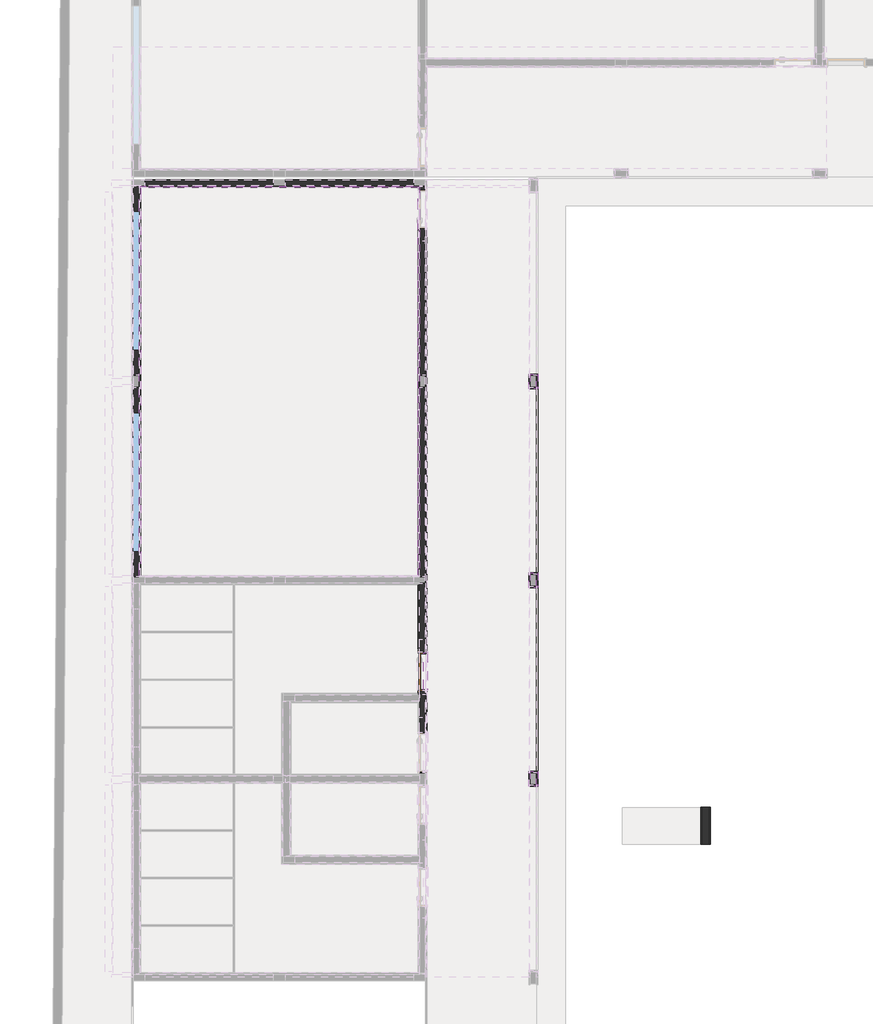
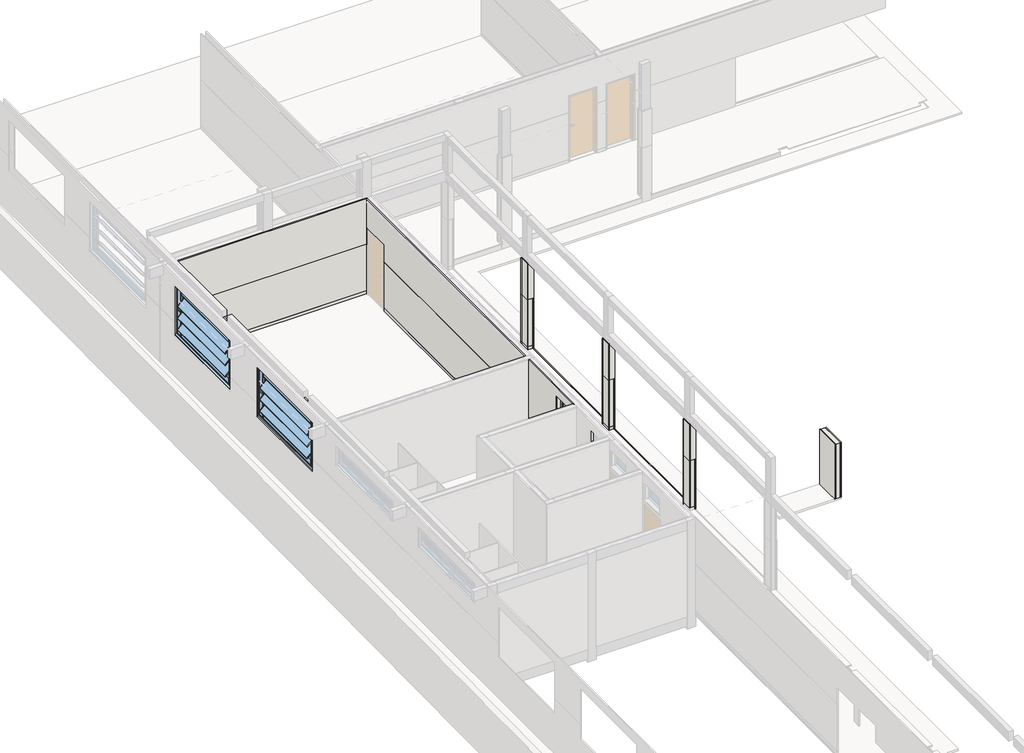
# One storey, part 4 of 11: 57 walls, 3 windows, 1 door.
"""IFC4 building model written with IfcOpenShell, lengths in millimetres."""

from ifc_helpers import new_model, si_unit, frame, origin, place, context, project, spatial, polyline, outline, extrude, faceted_brep, transform, mapped, element, save
from components import door_80_x_210_cm_externa_7cd48cfd, window_9a90df48, window_51dac84b

model = new_model("IFC4")

# Units and contexts
model_context = context("Model", 3, world=origin())
ifc_project = project(units=[si_unit("LENGTHUNIT", "METRE", prefix="MILLI")], contexts=[model_context])

# Site, building, storey
site = spatial("IfcSite", under=ifc_project)
building = spatial("IfcBuilding", under=site)
storey = spatial("IfcBuildingStorey", under=building, Name="NÍVEL 1", Elevation=43.4413576)

# Door
placement = place(None, origin())
door_80_x_210_cm_externa_shape = door_80_x_210_cm_externa_7cd48cfd(model_context)
element("IfcDoor", 1, ObjectType="POR_PM_GIRO_1FL : 80 x 210 cm Externa", at=placement, inside=storey, context=model_context, shape_type="MappedRepresentation", body=[
    mapped(door_80_x_210_cm_externa_shape, transform((9202.3574069, -2707.9280358, 63.4413576), x_axis=(0.0, 1.0, 0.0), y_axis=(-1.0, 0.0, 0.0), z_axis=(0.0, 0.0, 1.0))),
])

# Walls
element("IfcWall", 2, ObjectType="RODAPÉ EM GRANILITE", at=placement, inside=storey, context=model_context, shape_type="Brep", body=[
    faceted_brep([(11672.3574069, -4867.9280358, 43.4413576), (11502.3574069, -4867.9280358, 43.4413576), (11502.3574069, -4867.9280358, 143.4413576), (11672.3574069, -4867.9280358, 143.4413576), (11672.3574069, -4897.9280358, 43.4413576), (11672.3574069, -4897.9280358, 143.4413576), (11532.3574069, -4897.9280358, 143.4413576), (11502.3574069, -4897.9280358, 143.4413576), (11502.3574069, -4897.9280358, 43.4413576), (11532.3574069, -4897.9280358, 43.4413576), (11672.3574069, -4882.9280358, 43.4413576)], [[[0, 1, 2, 3]], [[4, 5, 6, 7, 8, 9]], [[1, 0, 10, 4, 9, 8]], [[3, 2, 7, 6, 5]], [[2, 1, 8, 7]], [[0, 3, 5, 4, 10]]]),
])
element("IfcWall", 3, ObjectType="RODAPÉ EM GRANILITE", at=placement, inside=storey, context=model_context, shape_type="Brep", body=[
    faceted_brep([(11672.3574069, -567.9280358, 43.4413576), (11502.3574069, -567.9280358, 43.4413576), (11502.3574069, -567.9280358, 143.4413576), (11672.3574069, -567.9280358, 143.4413576), (11672.3574069, -597.9280358, 43.4413576), (11672.3574069, -597.9280358, 143.4413576), (11532.3574069, -597.9280358, 143.4413576), (11502.3574069, -597.9280358, 143.4413576), (11502.3574069, -597.9280358, 43.4413576), (11532.3574069, -597.9280358, 43.4413576), (11672.3574069, -582.9280358, 43.4413576)], [[[0, 1, 2, 3]], [[4, 5, 6, 7, 8, 9]], [[1, 0, 10, 4, 9, 8]], [[3, 2, 7, 6, 5]], [[2, 1, 8, 7]], [[0, 3, 5, 4, 10]]]),
])
element("IfcWall", 4, ObjectType="RODAPÉ EM GRANILITE", at=placement, inside=storey, context=model_context, shape_type="Brep", body=[
    faceted_brep([(11502.3574069, -597.9280358, 43.4413576), (11502.3574069, -887.9280358, 43.4413576), (11502.3574069, -887.9280358, 143.4413576), (11502.3574069, -597.9280358, 143.4413576), (11532.3574069, -597.9280358, 43.4413576), (11532.3574069, -597.9280358, 143.4413576), (11532.3574069, -857.9280358, 143.4413576), (11532.3574069, -887.9280358, 143.4413576), (11532.3574069, -887.9280358, 43.4413576), (11532.3574069, -857.9280358, 43.4413576)], [[[0, 1, 2, 3]], [[4, 5, 6, 7, 8, 9]], [[1, 0, 4, 9, 8]], [[3, 2, 7, 6, 5]], [[0, 3, 5, 4]], [[2, 1, 8, 7]]]),
])
element("IfcWall", 5, ObjectType="RODAPÉ EM GRANILITE", at=placement, inside=storey, context=model_context, shape_type="Brep", body=[
    faceted_brep([(11532.3574069, -887.9280358, 43.4413576), (11672.3574069, -887.9280358, 43.4413576), (11672.3574069, -887.9280358, 143.4413576), (11532.3574069, -887.9280358, 143.4413576), (11532.3574069, -857.9280358, 43.4413576), (11532.3574069, -857.9280358, 143.4413576), (11672.3574069, -857.9280358, 143.4413576), (11672.3574069, -857.9280358, 43.4413576), (11672.3574069, -872.9280358, 43.4413576)], [[[0, 1, 2, 3]], [[4, 5, 6, 7]], [[1, 0, 4, 7, 8]], [[3, 2, 6, 5]], [[0, 3, 5, 4]], [[2, 1, 8, 7, 6]]]),
])
element("IfcWall", 6, ObjectType="RODAPÉ EM GRANILITE", at=placement, inside=storey, context=model_context, shape_type="Brep", body=[
    faceted_brep([(11672.3574069, 3732.0719642, 43.4413576), (11502.3574069, 3732.0719642, 43.4413576), (11502.3574069, 3732.0719642, 143.4413576), (11672.3574069, 3732.0719642, 143.4413576), (11672.3574069, 3702.0719642, 43.4413576), (11672.3574069, 3702.0719642, 143.4413576), (11532.3574069, 3702.0719642, 143.4413576), (11502.3574069, 3702.0719642, 143.4413576), (11502.3574069, 3702.0719642, 43.4413576), (11532.3574069, 3702.0719642, 43.4413576), (11672.3574069, 3717.0719642, 43.4413576)], [[[0, 1, 2, 3]], [[4, 5, 6, 7, 8, 9]], [[1, 0, 10, 4, 9, 8]], [[3, 2, 7, 6, 5]], [[2, 1, 8, 7]], [[0, 3, 5, 4, 10]]]),
])
element("IfcWall", 7, ObjectType="RODAPÉ EM GRANILITE", at=placement, inside=storey, context=model_context, shape_type="Brep", body=[
    faceted_brep([(11502.3574069, 3702.0719642, 43.4413576), (11502.3574069, 3412.0719642, 43.4413576), (11502.3574069, 3412.0719642, 143.4413576), (11502.3574069, 3702.0719642, 143.4413576), (11532.3574069, 3702.0719642, 43.4413576), (11532.3574069, 3702.0719642, 143.4413576), (11532.3574069, 3442.0719642, 143.4413576), (11532.3574069, 3412.0719642, 143.4413576), (11532.3574069, 3412.0719642, 43.4413576), (11532.3574069, 3442.0719642, 43.4413576)], [[[0, 1, 2, 3]], [[4, 5, 6, 7, 8, 9]], [[1, 0, 4, 9, 8]], [[3, 2, 7, 6, 5]], [[0, 3, 5, 4]], [[2, 1, 8, 7]]]),
])
element("IfcWall", 8, ObjectType="RODAPÉ EM GRANILITE", at=placement, inside=storey, context=model_context, shape_type="Brep", body=[
    faceted_brep([(11532.3574069, 3412.0719642, 43.4413576), (11672.3574069, 3412.0719642, 43.4413576), (11672.3574069, 3412.0719642, 143.4413576), (11532.3574069, 3412.0719642, 143.4413576), (11532.3574069, 3442.0719642, 43.4413576), (11532.3574069, 3442.0719642, 143.4413576), (11672.3574069, 3442.0719642, 143.4413576), (11672.3574069, 3442.0719642, 43.4413576), (11672.3574069, 3427.0719642, 43.4413576)], [[[0, 1, 2, 3]], [[4, 5, 6, 7]], [[1, 0, 4, 7, 8]], [[3, 2, 6, 5]], [[0, 3, 5, 4]], [[2, 1, 8, 7, 6]]]),
])
element("IfcWall", 9, ObjectType="MASSA ÚNICA PARA BARRADO", at=placement, inside=storey, context=model_context, shape_type="Brep", body=[
    faceted_brep([(11702.3574069, 3427.0719642, -106.5586424), (11702.3574069, 3717.0719642, -106.5586424), (11702.3574069, 3717.0719642, 43.4413576), (11702.3574069, 3732.0719642, 43.4413576), (11702.3574069, 3732.0719642, 1663.4413576), (11702.3574069, 3412.0719642, 1663.4413576), (11702.3574069, 3412.0719642, 43.4413576), (11702.3574069, 3427.0719642, 43.4413576), (11672.3574069, 3427.0719642, -106.5586424), (11672.3574069, 3427.0719642, 43.4413576), (11672.3574069, 3412.0719642, 43.4413576), (11672.3574069, 3412.0719642, 143.4413576), (11672.3574069, 3412.0719642, 1663.4413576), (11672.3574069, 3442.0719642, 1663.4413576), (11672.3574069, 3702.0719642, 1663.4413576), (11672.3574069, 3732.0719642, 1663.4413576), (11672.3574069, 3732.0719642, 143.4413576), (11672.3574069, 3732.0719642, 43.4413576), (11672.3574069, 3717.0719642, 43.4413576), (11672.3574069, 3717.0719642, -106.5586424)], [[[0, 1, 2, 3, 4, 5, 6, 7]], [[8, 9, 10, 11, 12, 13, 14, 15, 16, 17, 18, 19]], [[1, 0, 8, 19]], [[5, 4, 15, 14, 13, 12]], [[0, 7, 9, 8]], [[6, 10, 9, 7]], [[2, 1, 19, 18]], [[17, 3, 2, 18]], [[3, 17, 16, 15, 4]], [[5, 12, 11, 10, 6]]]),
])
element("IfcWall", 10, ObjectType="MASSA ÚNICA PARA BARRADO", at=placement, inside=storey, context=model_context, shape_type="Brep", body=[
    faceted_brep([(11702.3574069, -582.9280358, -106.5586424), (11702.3574069, 3427.0719642, -106.5586424), (11702.3574069, 3427.0719642, 43.4413576), (11702.3574069, 3412.0719642, 43.4413576), (11702.3574069, -567.9280358, 43.4413576), (11702.3574069, -582.9280358, 43.4413576), (11672.3574069, -582.9280358, -106.5586424), (11672.3574069, -582.9280358, 43.4413576), (11672.3574069, -567.9280358, 43.4413576), (11672.3574069, 3412.0719642, 43.4413576), (11672.3574069, 3427.0719642, 43.4413576), (11672.3574069, 3427.0719642, -106.5586424)], [[[0, 1, 2, 3, 4, 5]], [[6, 7, 8, 9, 10, 11]], [[1, 0, 6, 11]], [[2, 1, 11, 10]], [[5, 4, 3, 2, 10, 9, 8, 7]], [[0, 5, 7, 6]]]),
])
element("IfcWall", 11, ObjectType="MASSA ÚNICA PARA BARRADO", at=placement, inside=storey, context=model_context, shape_type="Brep", body=[
    faceted_brep([(11702.3574069, -872.9280358, -106.5586424), (11702.3574069, -582.9280358, -106.5586424), (11702.3574069, -582.9280358, 43.4413576), (11702.3574069, -567.9280358, 43.4413576), (11702.3574069, -567.9280358, 1663.4413576), (11702.3574069, -887.9280358, 1663.4413576), (11702.3574069, -887.9280358, 43.4413576), (11702.3574069, -872.9280358, 43.4413576), (11672.3574069, -872.9280358, -106.5586424), (11672.3574069, -872.9280358, 43.4413576), (11672.3574069, -887.9280358, 43.4413576), (11672.3574069, -887.9280358, 143.4413576), (11672.3574069, -887.9280358, 1663.4413576), (11672.3574069, -857.9280358, 1663.4413576), (11672.3574069, -597.9280358, 1663.4413576), (11672.3574069, -567.9280358, 1663.4413576), (11672.3574069, -567.9280358, 143.4413576), (11672.3574069, -567.9280358, 43.4413576), (11672.3574069, -582.9280358, 43.4413576), (11672.3574069, -582.9280358, -106.5586424)], [[[0, 1, 2, 3, 4, 5, 6, 7]], [[8, 9, 10, 11, 12, 13, 14, 15, 16, 17, 18, 19]], [[1, 0, 8, 19]], [[5, 4, 15, 14, 13, 12]], [[0, 7, 9, 8]], [[6, 10, 9, 7]], [[2, 1, 19, 18]], [[17, 3, 2, 18]], [[3, 17, 16, 15, 4]], [[5, 12, 11, 10, 6]]]),
])
element("IfcWall", 12, ObjectType="MASSA ÚNICA PARA BARRADO", at=placement, inside=storey, context=model_context, shape_type="Brep", body=[
    faceted_brep([(11702.3574069, -4882.9280358, -106.5586424), (11702.3574069, -872.9280358, -106.5586424), (11702.3574069, -872.9280358, 43.4413576), (11702.3574069, -887.9280358, 43.4413576), (11702.3574069, -4867.9280358, 43.4413576), (11702.3574069, -4882.9280358, 43.4413576), (11672.3574069, -4882.9280358, -106.5586424), (11672.3574069, -4882.9280358, 43.4413576), (11672.3574069, -4867.9280358, 43.4413576), (11672.3574069, -887.9280358, 43.4413576), (11672.3574069, -872.9280358, 43.4413576), (11672.3574069, -872.9280358, -106.5586424)], [[[0, 1, 2, 3, 4, 5]], [[6, 7, 8, 9, 10, 11]], [[1, 0, 6, 11]], [[2, 1, 11, 10]], [[5, 4, 3, 2, 10, 9, 8, 7]], [[0, 5, 7, 6]]]),
])
element("IfcWall", 13, ObjectType="MASSA ÚNICA PARA BARRADO", at=placement, inside=storey, context=model_context, shape_type="Brep", body=[
    faceted_brep([(11702.3574069, -5172.9280358, -106.5586424), (11702.3574069, -4882.9280358, -106.5586424), (11702.3574069, -4882.9280358, 43.4413576), (11702.3574069, -4867.9280358, 43.4413576), (11702.3574069, -4867.9280358, 1663.4413576), (11702.3574069, -5187.9280358, 1663.4413576), (11702.3574069, -5187.9280358, 43.4413576), (11702.3574069, -5172.9280358, 43.4413576), (11672.3574069, -5172.9280358, -106.5586424), (11672.3574069, -5172.9280358, 43.4413576), (11672.3574069, -5187.9280358, 43.4413576), (11672.3574069, -5187.9280358, 143.4413576), (11672.3574069, -5187.9280358, 1663.4413576), (11672.3574069, -5157.9280358, 1663.4413576), (11672.3574069, -4897.9280358, 1663.4413576), (11672.3574069, -4867.9280358, 1663.4413576), (11672.3574069, -4867.9280358, 143.4413576), (11672.3574069, -4867.9280358, 43.4413576), (11672.3574069, -4882.9280358, 43.4413576), (11672.3574069, -4882.9280358, -106.5586424)], [[[0, 1, 2, 3, 4, 5, 6, 7]], [[8, 9, 10, 11, 12, 13, 14, 15, 16, 17, 18, 19]], [[1, 0, 8, 19]], [[5, 4, 15, 14, 13, 12]], [[0, 7, 9, 8]], [[6, 10, 9, 7]], [[2, 1, 19, 18]], [[17, 3, 2, 18]], [[3, 17, 16, 15, 4]], [[5, 12, 11, 10, 6]]]),
])
element("IfcWall", 14, ObjectType="PARE.ALVE ALVENARIA DE BLOCOS CERÂMICOS FURADOS NA HORIZONTAL 14X9X19", at=placement, inside=storey, context=model_context, shape_type="Brep", body=[
    faceted_brep([(9272.3574069, -797.9280358, 43.4413576), (9272.3574069, -797.9280358, 2843.4413576), (9272.3574069, -2297.9280358, 2843.4413576), (9272.3574069, -2297.9280358, 2343.4413576), (9272.3574069, -2272.9280358, 2343.4413576), (9272.3574069, -2272.9280358, 2313.4413576), (9272.3574069, -3122.9280358, 2313.4413576), (9272.3574069, -3122.9280358, 2343.4413576), (9272.3574069, -3097.9280358, 2343.4413576), (9272.3574069, -3097.9280358, 2843.4413576), (9272.3574069, -4047.9280358, 2843.4413576), (9272.3574069, -4047.9280358, 2343.4413576), (9272.3574069, -4022.9280358, 2343.4413576), (9272.3574069, -4022.9280358, 2313.4413576), (9272.3574069, -4872.9280358, 2313.4413576), (9272.3574069, -4872.9280358, 2343.4413576), (9272.3574069, -4847.9280358, 2343.4413576), (9272.3574069, -4847.9280358, 2843.4413576), (9272.3574069, -4897.9280358, 2843.4413576), (9272.3574069, -4897.9280358, 2308.4413576), (9272.3574069, -3697.9280358, 2308.4413576), (9272.3574069, -3697.9280358, 2208.4413576), (9272.3574069, -4897.9280358, 2208.4413576), (9272.3574069, -4897.9280358, 43.4413576), (9272.3574069, -4877.9280358, 43.4413576), (9272.3574069, -4877.9280358, 2163.4413576), (9272.3574069, -4037.9280358, 2163.4413576), (9272.3574069, -4037.9280358, 43.4413576), (9272.3574069, -3127.9280358, 43.4413576), (9272.3574069, -3127.9280358, 2163.4413576), (9272.3574069, -2287.9280358, 2163.4413576), (9272.3574069, -2287.9280358, 43.4413576), (9272.3574069, -3207.9280358, 2308.4413576), (9272.3574069, -2007.9280358, 2308.4413576), (9272.3574069, -2007.9280358, 2208.4413576), (9272.3574069, -3207.9280358, 2208.4413576), (9132.3574069, -797.9280358, 2843.4413576), (9132.3574069, -797.9280358, 43.4413576), (9132.3574069, -2287.9280358, 43.4413576), (9132.3574069, -2287.9280358, 2163.4413576), (9132.3574069, -3127.9280358, 2163.4413576), (9132.3574069, -3127.9280358, 43.4413576), (9132.3574069, -3207.9280358, 43.4413576), (9132.3574069, -3347.9280358, 43.4413576), (9132.3574069, -4037.9280358, 43.4413576), (9132.3574069, -4037.9280358, 2163.4413576), (9132.3574069, -4877.9280358, 2163.4413576), (9132.3574069, -4877.9280358, 43.4413576), (9132.3574069, -4897.9280358, 43.4413576), (9132.3574069, -4897.9280358, 2208.4413576), (9132.3574069, -3697.9280358, 2208.4413576), (9132.3574069, -3697.9280358, 2308.4413576), (9132.3574069, -4897.9280358, 2308.4413576), (9132.3574069, -4897.9280358, 2843.4413576), (9132.3574069, -4847.9280358, 2843.4413576), (9132.3574069, -4847.9280358, 2343.4413576), (9132.3574069, -4872.9280358, 2343.4413576), (9132.3574069, -4872.9280358, 2313.4413576), (9132.3574069, -4022.9280358, 2313.4413576), (9132.3574069, -4022.9280358, 2343.4413576), (9132.3574069, -4047.9280358, 2343.4413576), (9132.3574069, -4047.9280358, 2843.4413576), (9132.3574069, -3347.9280358, 2843.4413576), (9132.3574069, -3207.9280358, 2843.4413576), (9132.3574069, -3097.9280358, 2843.4413576), (9132.3574069, -3097.9280358, 2343.4413576), (9132.3574069, -3122.9280358, 2343.4413576), (9132.3574069, -3122.9280358, 2313.4413576), (9132.3574069, -2272.9280358, 2313.4413576), (9132.3574069, -2272.9280358, 2343.4413576), (9132.3574069, -2297.9280358, 2343.4413576), (9132.3574069, -2297.9280358, 2843.4413576), (9132.3574069, -2007.9280358, 2308.4413576), (9132.3574069, -3207.9280358, 2308.4413576), (9132.3574069, -3207.9280358, 2208.4413576), (9132.3574069, -2007.9280358, 2208.4413576)], [[[0, 1, 2, 3, 4, 5, 6, 7, 8, 9, 10, 11, 12, 13, 14, 15, 16, 17, 18, 19, 20, 21, 22, 23, 24, 25, 26, 27, 28, 29, 30, 31], [32, 33, 34, 35]], [[36, 37, 38, 39, 40, 41, 42, 43, 44, 45, 46, 47, 48, 49, 50, 51, 52, 53, 54, 55, 56, 57, 58, 59, 60, 61, 62, 63, 64, 65, 66, 67, 68, 69, 70, 71], [72, 73, 74, 75]], [[37, 0, 31, 38]], [[23, 48, 47, 24]], [[27, 44, 43, 42, 41, 28]], [[1, 0, 37, 36]], [[1, 36, 71, 2]], [[53, 18, 17, 54]], [[9, 64, 63, 62, 61, 10]], [[18, 53, 52, 19]], [[48, 23, 22, 49]], [[25, 24, 47, 46]], [[27, 26, 45, 44]], [[26, 25, 46, 45]], [[29, 28, 41, 40]], [[31, 30, 39, 38]], [[30, 29, 40, 39]], [[51, 20, 19, 52]], [[21, 50, 49, 22]], [[20, 51, 50, 21]], [[32, 73, 72, 33]], [[73, 32, 35, 74]], [[74, 35, 34, 75]], [[33, 72, 75, 34]], [[69, 68, 5, 4]], [[70, 69, 4, 3]], [[71, 70, 3, 2]], [[65, 64, 9, 8]], [[66, 65, 8, 7]], [[67, 66, 7, 6]], [[68, 67, 6, 5]], [[59, 58, 13, 12]], [[60, 59, 12, 11]], [[61, 60, 11, 10]], [[55, 54, 17, 16]], [[56, 55, 16, 15]], [[57, 56, 15, 14]], [[58, 57, 14, 13]]]),
])
element("IfcWall", 15, ObjectType="PARE.ALVE ALVENARIA DE BLOCOS CERÂMICOS FURADOS NA HORIZONTAL 14X9X19", at=placement, inside=storey, context=model_context, shape_type="Brep", body=[
    faceted_brep([(3072.3574069, -657.9280358, 43.4413576), (3072.3574069, 3442.0719642, 43.4413576), (3072.3574069, 3442.0719642, 1003.4413576), (3072.3574069, -657.9280358, 1003.4413576), (3072.3574069, -657.9280358, 163.4413576), (3072.3574069, -657.9280358, 63.4413576), (2932.3574069, 3442.0719642, 43.4413576), (2932.3574069, -657.9280358, 43.4413576), (2932.3574069, -657.9280358, 1003.4413576), (2932.3574069, 3442.0719642, 1003.4413576)], [[[0, 1, 2, 3, 4, 5]], [[6, 7, 8, 9]], [[1, 0, 7, 6]], [[1, 6, 9, 2]], [[3, 2, 9, 8]], [[7, 0, 5, 4, 3, 8]]]),
    faceted_brep([(3072.3574069, -657.9280358, 2843.4413576), (3072.3574069, -657.9280358, 1663.4413576), (3072.3574069, -657.9280358, 1203.4413576), (3072.3574069, -107.9280358, 1203.4413576), (3072.3574069, -107.9280358, 2843.4413576), (2932.3574069, -657.9280358, 1203.4413576), (2932.3574069, -657.9280358, 2843.4413576), (2932.3574069, -107.9280358, 2843.4413576), (2932.3574069, -107.9280358, 1203.4413576)], [[[0, 1, 2, 3, 4]], [[5, 6, 7, 8]], [[6, 0, 4, 7]], [[2, 5, 8, 3]], [[0, 6, 5, 2, 1]], [[4, 3, 8, 7]]]),
    faceted_brep([(3072.3574069, 3442.0719642, 1203.4413576), (3072.3574069, 3442.0719642, 2843.4413576), (3072.3574069, 2892.0719642, 2843.4413576), (3072.3574069, 2892.0719642, 1203.4413576), (2932.3574069, 3442.0719642, 2843.4413576), (2932.3574069, 3442.0719642, 1203.4413576), (2932.3574069, 2892.0719642, 1203.4413576), (2932.3574069, 2892.0719642, 2843.4413576)], [[[0, 1, 2, 3]], [[4, 5, 6, 7]], [[4, 1, 0, 5]], [[1, 4, 7, 2]], [[5, 0, 3, 6]], [[3, 2, 7, 6]]]),
])
element("IfcWall", 16, ObjectType="PARE.ALVE ALVENARIA DE BLOCOS CERÂMICOS FURADOS NA HORIZONTAL 14X9X19", at=placement, inside=storey, context=model_context, shape_type="Brep", body=[
    faceted_brep([(3072.3574069, 3702.0719642, 43.4413576), (3072.3574069, 7802.0719642, 43.4413576), (3072.3574069, 7802.0719642, 63.4413576), (3072.3574069, 7802.0719642, 163.4413576), (3072.3574069, 7802.0719642, 1003.4413576), (3072.3574069, 3702.0719642, 1003.4413576), (2932.3574069, 7802.0719642, 43.4413576), (2932.3574069, 3702.0719642, 43.4413576), (2932.3574069, 3702.0719642, 1003.4413576), (2932.3574069, 7802.0719642, 1003.4413576)], [[[0, 1, 2, 3, 4, 5]], [[6, 7, 8, 9]], [[1, 0, 7, 6]], [[7, 0, 5, 8]], [[5, 4, 9, 8]], [[1, 6, 9, 4, 3, 2]]]),
    faceted_brep([(3072.3574069, 3702.0719642, 2843.4413576), (3072.3574069, 3702.0719642, 1203.4413576), (3072.3574069, 4252.0719642, 1203.4413576), (3072.3574069, 4252.0719642, 2843.4413576), (2932.3574069, 3702.0719642, 1203.4413576), (2932.3574069, 3702.0719642, 2843.4413576), (2932.3574069, 4252.0719642, 2843.4413576), (2932.3574069, 4252.0719642, 1203.4413576)], [[[0, 1, 2, 3]], [[4, 5, 6, 7]], [[5, 0, 3, 6]], [[0, 5, 4, 1]], [[1, 4, 7, 2]], [[3, 2, 7, 6]]]),
    faceted_brep([(3072.3574069, 7802.0719642, 1203.4413576), (3072.3574069, 7802.0719642, 1663.4413576), (3072.3574069, 7802.0719642, 2843.4413576), (3072.3574069, 7252.0719642, 2843.4413576), (3072.3574069, 7252.0719642, 1203.4413576), (2932.3574069, 7802.0719642, 2843.4413576), (2932.3574069, 7802.0719642, 1203.4413576), (2932.3574069, 7252.0719642, 1203.4413576), (2932.3574069, 7252.0719642, 2843.4413576)], [[[0, 1, 2, 3, 4]], [[5, 6, 7, 8]], [[2, 5, 8, 3]], [[6, 0, 4, 7]], [[4, 3, 8, 7]], [[5, 2, 1, 0, 6]]]),
])
element("IfcWall", 17, ObjectType="PARE.ALVE ALVENARIA DE BLOCOS CERÂMICOS FURADOS NA HORIZONTAL 14X9X19", at=placement, inside=storey, context=model_context, shape_type="SweptSolid", body=[
    extrude(outline(polyline([(5972.3574069, 7802.0719642), (3192.3574069, 7802.0719642), (3192.3574069, 7942.0719642), (5972.3574069, 7942.0719642), (5972.3574069, 7802.0719642)])), frame((0.0, 0.0, 43.4413576), z_axis=(0.0, 0.0, 1.0), x_axis=(1.0, 0.0, 0.0)), (0.0, 0.0, 1.0), 2800.0),
])
element("IfcWall", 18, ObjectType="PARE.ALVE ALVENARIA DE BLOCOS CERÂMICOS FURADOS NA HORIZONTAL 14X9X19", at=placement, inside=storey, context=model_context, shape_type="SweptSolid", body=[
    extrude(outline(polyline([(9012.3574069, 7802.0719642), (6232.3574069, 7802.0719642), (6232.3574069, 7942.0719642), (9012.3574069, 7942.0719642), (9012.3574069, 7802.0719642)])), frame((0.0, 0.0, 43.4413576), z_axis=(0.0, 0.0, 1.0), x_axis=(1.0, 0.0, 0.0)), (0.0, 0.0, 1.0), 2800.0),
])
element("IfcWall", 19, ObjectType="PARE.ALVE ALVENARIA DE BLOCOS CERÂMICOS FURADOS NA HORIZONTAL 14X9X19", at=placement, inside=storey, context=model_context, shape_type="Brep", body=[
    faceted_brep([(9132.3574069, 3702.0719642, 43.4413576), (9132.3574069, 3702.0719642, 2843.4413576), (9132.3574069, 7802.0719642, 2843.4413576), (9132.3574069, 7802.0719642, 2308.4413576), (9132.3574069, 6602.0719642, 2308.4413576), (9132.3574069, 6602.0719642, 2208.4413576), (9132.3574069, 7802.0719642, 2208.4413576), (9132.3574069, 7802.0719642, 1663.4413576), (9132.3574069, 7802.0719642, 163.4413576), (9132.3574069, 7802.0719642, 43.4413576), (9132.3574069, 7722.0719642, 43.4413576), (9132.3574069, 7722.0719642, 2163.4413576), (9132.3574069, 6882.0719642, 2163.4413576), (9132.3574069, 6882.0719642, 43.4413576), (9272.3574069, 3702.0719642, 2843.4413576), (9272.3574069, 3702.0719642, 43.4413576), (9272.3574069, 6882.0719642, 43.4413576), (9272.3574069, 6882.0719642, 2163.4413576), (9272.3574069, 7722.0719642, 2163.4413576), (9272.3574069, 7722.0719642, 43.4413576), (9272.3574069, 7802.0719642, 43.4413576), (9272.3574069, 7802.0719642, 2208.4413576), (9272.3574069, 6602.0719642, 2208.4413576), (9272.3574069, 6602.0719642, 2308.4413576), (9272.3574069, 7802.0719642, 2308.4413576), (9272.3574069, 7802.0719642, 2843.4413576)], [[[0, 1, 2, 3, 4, 5, 6, 7, 8, 9, 10, 11, 12, 13]], [[14, 15, 16, 17, 18, 19, 20, 21, 22, 23, 24, 25]], [[15, 0, 13, 16]], [[10, 9, 20, 19]], [[1, 0, 15, 14]], [[2, 1, 14, 25]], [[18, 11, 10, 19]], [[12, 17, 16, 13]], [[11, 18, 17, 12]], [[2, 25, 24, 3]], [[20, 9, 8, 7, 6, 21]], [[23, 4, 3, 24]], [[4, 23, 22, 5]], [[5, 22, 21, 6]]]),
])
element("IfcWall", 20, ObjectType="PARE.ALVE ALVENARIA DE BLOCOS CERÂMICOS FURADOS NA HORIZONTAL 14X9X19", at=placement, inside=storey, context=model_context, shape_type="Brep", body=[
    faceted_brep([(9132.3574069, 3442.0719642, 43.4413576), (9132.3574069, -657.9280358, 43.4413576), (9132.3574069, -657.9280358, 63.4413576), (9132.3574069, -657.9280358, 163.4413576), (9132.3574069, -657.9280358, 1663.4413576), (9132.3574069, -657.9280358, 2843.4413576), (9132.3574069, 3442.0719642, 2843.4413576), (9272.3574069, 3442.0719642, 43.4413576), (9272.3574069, 3442.0719642, 2843.4413576), (9272.3574069, -657.9280358, 2843.4413576), (9272.3574069, -657.9280358, 43.4413576)], [[[0, 1, 2, 3, 4, 5, 6]], [[7, 8, 9, 10]], [[1, 0, 7, 10]], [[6, 5, 9, 8]], [[0, 6, 8, 7]], [[1, 10, 9, 5, 4, 3, 2]]]),
])
element("IfcWall", 21, ObjectType="RODAPÉ EM GRANILITE", at=placement, inside=storey, context=model_context, shape_type="SweptSolid", body=[
    extrude(outline(polyline([(9102.3574069, -627.9280358), (9102.3574069, 6852.0719642), (9132.3574069, 6852.0719642), (9132.3574069, -627.9280358), (9102.3574069, -627.9280358)])), frame((0.0, 0.0, 63.4413576), z_axis=(0.0, 0.0, 1.0), x_axis=(1.0, 0.0, 0.0)), (0.0, 0.0, 1.0), 100.0),
])
element("IfcWall", 22, ObjectType="RODAPÉ EM GRANILITE", at=placement, inside=storey, context=model_context, shape_type="SweptSolid", body=[
    extrude(outline(polyline([(3102.3574069, 7772.0719642), (3102.3574069, -627.9280358), (3072.3574069, -627.9280358), (3072.3574069, 7772.0719642), (3102.3574069, 7772.0719642)])), frame((0.0, 0.0, 63.4413576), z_axis=(0.0, 0.0, 1.0), x_axis=(1.0, 0.0, 0.0)), (0.0, 0.0, 1.0), 100.0),
])
element("IfcWall", 23, ObjectType="RODAPÉ EM GRANILITE", at=placement, inside=storey, context=model_context, shape_type="Brep", body=[
    faceted_brep([(3072.3574069, 7772.0719642, 63.4413576), (3102.3574069, 7772.0719642, 63.4413576), (9102.3574069, 7772.0719642, 63.4413576), (9102.3574069, 7772.0719642, 163.4413576), (3102.3574069, 7772.0719642, 163.4413576), (3072.3574069, 7772.0719642, 163.4413576), (3072.3574069, 7802.0719642, 63.4413576), (3072.3574069, 7802.0719642, 163.4413576), (9102.3574069, 7802.0719642, 163.4413576), (9102.3574069, 7802.0719642, 63.4413576)], [[[0, 1, 2, 3, 4, 5]], [[6, 7, 8, 9]], [[2, 1, 0, 6, 9]], [[5, 4, 3, 8, 7]], [[0, 5, 7, 6]], [[3, 2, 9, 8]]]),
])
element("IfcWall", 24, ObjectType="RODAPÉ EM GRANILITE", at=placement, inside=storey, context=model_context, shape_type="SweptSolid", body=[
    extrude(outline(polyline([(9302.3574069, -3152.9280358), (9302.3574069, -4012.9280358), (9272.3574069, -4012.9280358), (9272.3574069, -3152.9280358), (9302.3574069, -3152.9280358)])), frame((0.0, 0.0, 43.4413576), z_axis=(0.0, 0.0, 1.0), x_axis=(1.0, 0.0, 0.0)), (0.0, 0.0, 1.0), 100.0),
])
element("IfcWall", 25, ObjectType="RODAPÉ EM GRANILITE", at=placement, inside=storey, context=model_context, shape_type="SweptSolid", body=[
    extrude(outline(polyline([(9302.3574069, 6857.0719642), (9302.3574069, -2262.9280358), (9272.3574069, -2262.9280358), (9272.3574069, 6857.0719642), (9302.3574069, 6857.0719642)])), frame((0.0, 0.0, 43.4413576), z_axis=(0.0, 0.0, 1.0), x_axis=(1.0, 0.0, 0.0)), (0.0, 0.0, 1.0), 100.0),
])
element("IfcWall", 26, ObjectType="MASSA ÚNICA PARA BARRADO", at=placement, inside=storey, context=model_context, shape_type="Brep", body=[
    faceted_brep([(3072.3574069, 7772.0719642, 163.4413576), (3102.3574069, 7772.0719642, 163.4413576), (9102.3574069, 7772.0719642, 163.4413576), (9132.3574069, 7772.0719642, 163.4413576), (9132.3574069, 7772.0719642, 1663.4413576), (9102.3574069, 7772.0719642, 1663.4413576), (3102.3574069, 7772.0719642, 1663.4413576), (3072.3574069, 7772.0719642, 1663.4413576), (3072.3574069, 7802.0719642, 163.4413576), (3072.3574069, 7802.0719642, 1003.4413576), (3072.3574069, 7802.0719642, 1203.4413576), (3072.3574069, 7802.0719642, 1663.4413576), (9132.3574069, 7802.0719642, 1663.4413576), (9132.3574069, 7802.0719642, 163.4413576), (9102.3574069, 7802.0719642, 163.4413576)], [[[0, 1, 2, 3, 4, 5, 6, 7]], [[8, 9, 10, 11, 12, 13, 14]], [[3, 2, 1, 0, 8, 14, 13]], [[7, 6, 5, 4, 12, 11]], [[0, 7, 11, 10, 9, 8]], [[4, 3, 13, 12]]]),
])
element("IfcWall", 27, ObjectType="MASSA ÚNICA PARA BARRADO", at=placement, inside=storey, context=model_context, shape_type="SweptSolid", body=[
    extrude(outline(polyline([(9102.3574069, -627.9280358), (9102.3574069, 6852.0719642), (9132.3574069, 6852.0719642), (9132.3574069, -627.9280358), (9102.3574069, -627.9280358)])), frame((0.0, 0.0, 163.4413576), z_axis=(0.0, 0.0, 1.0), x_axis=(1.0, 0.0, 0.0)), (0.0, 0.0, 1.0), 1500.0),
])
element("IfcWall", 28, ObjectType="MASSA ÚNICA PARA BARRADO", at=placement, inside=storey, context=model_context, shape_type="SweptSolid", body=[
    extrude(outline(polyline([(7772.0719642, 163.4413576), (-627.9280358, 163.4413576), (-627.9280358, 1663.4413576), (-107.9280358, 1663.4413576), (-107.9280358, 1203.4413576), (2891.3447703, 1203.4413576), (2891.3447703, 1663.4413576), (4252.1287486, 1663.4413576), (4252.1287486, 1203.4413576), (7252.0719642, 1203.4413576), (7252.0719642, 1663.4413576), (7772.0719642, 1663.4413576), (7772.0719642, 163.4413576)])), frame((3072.3574069, 0.0, 0.0), z_axis=(1.0, 0.0, 0.0), x_axis=(0.0, 1.0, 0.0)), (0.0, 0.0, 1.0), 30.0),
])
element("IfcWall", 29, ObjectType="MASSA ÚNICA PARA LATEX", at=placement, inside=storey, context=model_context, shape_type="Brep", body=[
    faceted_brep([(3072.3574069, 7772.0719642, 1663.4413576), (3102.3574069, 7772.0719642, 1663.4413576), (9102.3574069, 7772.0719642, 1663.4413576), (9132.3574069, 7772.0719642, 1663.4413576), (9132.3574069, 7772.0719642, 3143.4413576), (9102.3574069, 7772.0719642, 3143.4413576), (3102.3574069, 7772.0719642, 3143.4413576), (3072.3574069, 7772.0719642, 3143.4413576), (3072.3574069, 7802.0719642, 1663.4413576), (3072.3574069, 7802.0719642, 2843.4413576), (3072.3574069, 7802.0719642, 3143.4413576), (9132.3574069, 7802.0719642, 3143.4413576), (9132.3574069, 7802.0719642, 1663.4413576)], [[[0, 1, 2, 3, 4, 5, 6, 7]], [[8, 9, 10, 11, 12]], [[3, 2, 1, 0, 8, 12]], [[7, 6, 5, 4, 11, 10]], [[0, 7, 10, 9, 8]], [[4, 3, 12, 11]]]),
])
element("IfcWall", 30, ObjectType="MASSA ÚNICA PARA LATEX", at=placement, inside=storey, context=model_context, shape_type="SweptSolid", body=[
    extrude(outline(polyline([(-627.9280358, 1663.4413576), (-627.9280358, 3143.4413576), (7772.0719642, 3143.4413576), (7772.0719642, 1663.4413576), (7752.0719642, 1663.4413576), (7752.0719642, 2213.4413576), (6852.0719642, 2213.4413576), (6852.0719642, 1663.4413576), (-627.9280358, 1663.4413576)])), frame((9102.3574069, 0.0, 0.0), z_axis=(1.0, 0.0, 0.0), x_axis=(0.0, 1.0, 0.0)), (0.0, 0.0, 1.0), 30.0),
])
element("IfcWall", 31, ObjectType="MASSA ÚNICA PARA LATEX", at=placement, inside=storey, context=model_context, shape_type="SweptSolid", body=[
    extrude(outline(polyline([(7772.0719642, 3143.4413576), (7772.0719642, 1663.4413576), (7252.0719642, 1663.4413576), (7252.0719642, 2843.4413576), (4252.1615952, 2843.4413576), (4252.1615952, 1663.4413576), (2892.1615952, 1663.4413576), (2892.1615952, 2843.4413576), (-107.9280358, 2843.4413576), (-107.9280358, 1663.4413576), (-627.9280358, 1663.4413576), (-627.9280358, 3143.4413576), (7772.0719642, 3143.4413576)])), frame((3072.3574069, 0.0, 0.0), z_axis=(1.0, 0.0, 0.0), x_axis=(0.0, 1.0, 0.0)), (0.0, 0.0, 1.0), 30.0),
])
element("IfcWall", 32, ObjectType="MASSA ÚNICA PARA BARRADO", at=placement, inside=storey, context=model_context, shape_type="SweptSolid", body=[
    extrude(outline(polyline([(9302.3574069, -3152.9280358), (9302.3574069, -4012.9280358), (9272.3574069, -4012.9280358), (9272.3574069, -3152.9280358), (9302.3574069, -3152.9280358)])), frame((0.0, 0.0, 143.4413576), z_axis=(0.0, 0.0, 1.0), x_axis=(1.0, 0.0, 0.0)), (0.0, 0.0, 1.0), 1520.0),
])
element("IfcWall", 33, ObjectType="MASSA ÚNICA PARA BARRADO", at=placement, inside=storey, context=model_context, shape_type="SweptSolid", body=[
    extrude(outline(polyline([(9302.3574069, 6857.0719642), (9302.3574069, -2262.9280358), (9272.3574069, -2262.9280358), (9272.3574069, 6857.0719642), (9302.3574069, 6857.0719642)])), frame((0.0, 0.0, 143.4413576), z_axis=(0.0, 0.0, 1.0), x_axis=(1.0, 0.0, 0.0)), (0.0, 0.0, 1.0), 1520.0),
])
element("IfcWall", 34, ObjectType="MASSA ÚNICA PARA BARRADO", at=placement, inside=storey, context=model_context, shape_type="Brep", body=[
    faceted_brep([(11672.3574069, -4867.9280358, 143.4413576), (11502.3574069, -4867.9280358, 143.4413576), (11502.3574069, -4867.9280358, 1663.4413576), (11672.3574069, -4867.9280358, 1663.4413576), (11672.3574069, -4897.9280358, 143.4413576), (11672.3574069, -4897.9280358, 1663.4413576), (11532.3574069, -4897.9280358, 1663.4413576), (11502.3574069, -4897.9280358, 1663.4413576), (11502.3574069, -4897.9280358, 143.4413576), (11532.3574069, -4897.9280358, 143.4413576)], [[[0, 1, 2, 3]], [[4, 5, 6, 7, 8, 9]], [[1, 0, 4, 9, 8]], [[3, 2, 7, 6, 5]], [[0, 3, 5, 4]], [[2, 1, 8, 7]]]),
])
element("IfcWall", 35, ObjectType="MASSA ÚNICA PARA BARRADO", at=placement, inside=storey, context=model_context, shape_type="Brep", body=[
    faceted_brep([(11502.3574069, -4897.9280358, 143.4413576), (11502.3574069, -5187.9280358, 143.4413576), (11502.3574069, -5187.9280358, 1663.4413576), (11502.3574069, -4897.9280358, 1663.4413576), (11532.3574069, -4897.9280358, 143.4413576), (11532.3574069, -4897.9280358, 1663.4413576), (11532.3574069, -5157.9280358, 1663.4413576), (11532.3574069, -5187.9280358, 1663.4413576), (11532.3574069, -5187.9280358, 143.4413576), (11532.3574069, -5157.9280358, 143.4413576)], [[[0, 1, 2, 3]], [[4, 5, 6, 7, 8, 9]], [[1, 0, 4, 9, 8]], [[3, 2, 7, 6, 5]], [[0, 3, 5, 4]], [[2, 1, 8, 7]]]),
])
element("IfcWall", 36, ObjectType="MASSA ÚNICA PARA BARRADO", at=placement, inside=storey, context=model_context, shape_type="SweptSolid", body=[
    extrude(outline(polyline([(11672.3574069, -5187.9280358), (11532.3574069, -5187.9280358), (11532.3574069, -5157.9280358), (11672.3574069, -5157.9280358), (11672.3574069, -5187.9280358)])), frame((0.0, 0.0, 143.4413576), z_axis=(0.0, 0.0, 1.0), x_axis=(1.0, 0.0, 0.0)), (0.0, 0.0, 1.0), 1520.0),
])
element("IfcWall", 37, ObjectType="MASSA ÚNICA PARA BARRADO", at=placement, inside=storey, context=model_context, shape_type="Brep", body=[
    faceted_brep([(11672.3574069, -567.9280358, 143.4413576), (11502.3574069, -567.9280358, 143.4413576), (11502.3574069, -567.9280358, 1663.4413576), (11672.3574069, -567.9280358, 1663.4413576), (11672.3574069, -597.9280358, 143.4413576), (11672.3574069, -597.9280358, 1663.4413576), (11532.3574069, -597.9280358, 1663.4413576), (11502.3574069, -597.9280358, 1663.4413576), (11502.3574069, -597.9280358, 143.4413576), (11532.3574069, -597.9280358, 143.4413576)], [[[0, 1, 2, 3]], [[4, 5, 6, 7, 8, 9]], [[1, 0, 4, 9, 8]], [[3, 2, 7, 6, 5]], [[0, 3, 5, 4]], [[2, 1, 8, 7]]]),
])
element("IfcWall", 38, ObjectType="MASSA ÚNICA PARA BARRADO", at=placement, inside=storey, context=model_context, shape_type="Brep", body=[
    faceted_brep([(11502.3574069, -597.9280358, 143.4413576), (11502.3574069, -887.9280358, 143.4413576), (11502.3574069, -887.9280358, 1663.4413576), (11502.3574069, -597.9280358, 1663.4413576), (11532.3574069, -597.9280358, 143.4413576), (11532.3574069, -597.9280358, 1663.4413576), (11532.3574069, -857.9280358, 1663.4413576), (11532.3574069, -887.9280358, 1663.4413576), (11532.3574069, -887.9280358, 143.4413576), (11532.3574069, -857.9280358, 143.4413576)], [[[0, 1, 2, 3]], [[4, 5, 6, 7, 8, 9]], [[1, 0, 4, 9, 8]], [[3, 2, 7, 6, 5]], [[0, 3, 5, 4]], [[2, 1, 8, 7]]]),
])
element("IfcWall", 39, ObjectType="MASSA ÚNICA PARA BARRADO", at=placement, inside=storey, context=model_context, shape_type="SweptSolid", body=[
    extrude(outline(polyline([(11672.3574069, -887.9280358), (11532.3574069, -887.9280358), (11532.3574069, -857.9280358), (11672.3574069, -857.9280358), (11672.3574069, -887.9280358)])), frame((0.0, 0.0, 143.4413576), z_axis=(0.0, 0.0, 1.0), x_axis=(1.0, 0.0, 0.0)), (0.0, 0.0, 1.0), 1520.0),
])
element("IfcWall", 40, ObjectType="MASSA ÚNICA PARA BARRADO", at=placement, inside=storey, context=model_context, shape_type="Brep", body=[
    faceted_brep([(11672.3574069, 3732.0719642, 143.4413576), (11502.3574069, 3732.0719642, 143.4413576), (11502.3574069, 3732.0719642, 1663.4413576), (11672.3574069, 3732.0719642, 1663.4413576), (11672.3574069, 3702.0719642, 143.4413576), (11672.3574069, 3702.0719642, 1663.4413576), (11532.3574069, 3702.0719642, 1663.4413576), (11502.3574069, 3702.0719642, 1663.4413576), (11502.3574069, 3702.0719642, 143.4413576), (11532.3574069, 3702.0719642, 143.4413576)], [[[0, 1, 2, 3]], [[4, 5, 6, 7, 8, 9]], [[1, 0, 4, 9, 8]], [[3, 2, 7, 6, 5]], [[0, 3, 5, 4]], [[2, 1, 8, 7]]]),
])
element("IfcWall", 41, ObjectType="MASSA ÚNICA PARA BARRADO", at=placement, inside=storey, context=model_context, shape_type="Brep", body=[
    faceted_brep([(11502.3574069, 3702.0719642, 143.4413576), (11502.3574069, 3412.0719642, 143.4413576), (11502.3574069, 3412.0719642, 1663.4413576), (11502.3574069, 3702.0719642, 1663.4413576), (11532.3574069, 3702.0719642, 143.4413576), (11532.3574069, 3702.0719642, 1663.4413576), (11532.3574069, 3442.0719642, 1663.4413576), (11532.3574069, 3412.0719642, 1663.4413576), (11532.3574069, 3412.0719642, 143.4413576), (11532.3574069, 3442.0719642, 143.4413576)], [[[0, 1, 2, 3]], [[4, 5, 6, 7, 8, 9]], [[1, 0, 4, 9, 8]], [[3, 2, 7, 6, 5]], [[0, 3, 5, 4]], [[2, 1, 8, 7]]]),
])
element("IfcWall", 42, ObjectType="MASSA ÚNICA PARA BARRADO", at=placement, inside=storey, context=model_context, shape_type="SweptSolid", body=[
    extrude(outline(polyline([(11672.3574069, 3412.0719642), (11532.3574069, 3412.0719642), (11532.3574069, 3442.0719642), (11672.3574069, 3442.0719642), (11672.3574069, 3412.0719642)])), frame((0.0, 0.0, 143.4413576), z_axis=(0.0, 0.0, 1.0), x_axis=(1.0, 0.0, 0.0)), (0.0, 0.0, 1.0), 1520.0),
])
element("IfcWall", 43, ObjectType="PARE.ALVE ALVENARIA DE BLOCOS CERÂMICOS FURADOS NA HORIZONTAL 14X9X19", at=placement, inside=storey, context=model_context, shape_type="SweptSolid", body=[
    extrude(outline(polyline([(15262.3574069, -6447.9280358), (15262.3574069, -5647.9280358), (15402.3574069, -5647.9280358), (15402.3574069, -6447.9280358), (15262.3574069, -6447.9280358)])), frame((0.0, 0.0, -106.5586424), z_axis=(0.0, 0.0, 1.0), x_axis=(1.0, 0.0, 0.0)), (0.0, 0.0, 1.0), 1770.0),
])
element("IfcWall", 44, ObjectType="MASSA ÚNICA SARRAFEADA PARA ACRILICO", at=placement, inside=storey, context=model_context, shape_type="SweptSolid", body=[
    extrude(outline(polyline([(15232.3574069, -6447.9280358), (15232.3574069, -5647.9280358), (15262.3574069, -5647.9280358), (15262.3574069, -6447.9280358), (15232.3574069, -6447.9280358)])), frame((0.0, 0.0, -106.5586424), z_axis=(0.0, 0.0, 1.0), x_axis=(1.0, 0.0, 0.0)), (0.0, 0.0, 1.0), 1770.0),
])
element("IfcWall", 45, ObjectType="MASSA ÚNICA SARRAFEADA PARA ACRILICO", at=placement, inside=storey, context=model_context, shape_type="SweptSolid", body=[
    extrude(outline(polyline([(15432.3574069, -5647.9280358), (15432.3574069, -6447.9280358), (15402.3574069, -6447.9280358), (15402.3574069, -5647.9280358), (15432.3574069, -5647.9280358)])), frame((0.0, 0.0, -106.5586424), z_axis=(0.0, 0.0, 1.0), x_axis=(1.0, 0.0, 0.0)), (0.0, 0.0, 1.0), 1770.0),
])
element("IfcWall", 46, ObjectType="MASSA ÚNICA SARRAFEADA PARA ACRILICO", at=placement, inside=storey, context=model_context, shape_type="Brep", body=[
    faceted_brep([(11702.3574069, -4867.9280358, 1663.4413576), (11502.3574069, -4867.9280358, 1663.4413576), (11502.3574069, -4867.9280358, 2843.4413576), (11702.3574069, -4867.9280358, 2843.4413576), (11702.3574069, -4897.9280358, 1663.4413576), (11702.3574069, -4897.9280358, 2843.4413576), (11672.3574069, -4897.9280358, 2843.4413576), (11532.3574069, -4897.9280358, 2843.4413576), (11502.3574069, -4897.9280358, 2843.4413576), (11502.3574069, -4897.9280358, 1663.4413576), (11532.3574069, -4897.9280358, 1663.4413576), (11672.3574069, -4897.9280358, 1663.4413576)], [[[0, 1, 2, 3]], [[4, 5, 6, 7, 8, 9, 10, 11]], [[1, 0, 4, 11, 10, 9]], [[3, 2, 8, 7, 6, 5]], [[2, 1, 9, 8]], [[0, 3, 5, 4]]]),
])
element("IfcWall", 47, ObjectType="MASSA ÚNICA SARRAFEADA PARA ACRILICO", at=placement, inside=storey, context=model_context, shape_type="Brep", body=[
    faceted_brep([(11502.3574069, -4897.9280358, 1663.4413576), (11502.3574069, -5187.9280358, 1663.4413576), (11502.3574069, -5187.9280358, 2843.4413576), (11502.3574069, -4897.9280358, 2843.4413576), (11532.3574069, -4897.9280358, 1663.4413576), (11532.3574069, -4897.9280358, 2843.4413576), (11532.3574069, -5157.9280358, 2843.4413576), (11532.3574069, -5187.9280358, 2843.4413576), (11532.3574069, -5187.9280358, 1663.4413576), (11532.3574069, -5157.9280358, 1663.4413576)], [[[0, 1, 2, 3]], [[4, 5, 6, 7, 8, 9]], [[1, 0, 4, 9, 8]], [[3, 2, 7, 6, 5]], [[0, 3, 5, 4]], [[2, 1, 8, 7]]]),
])
element("IfcWall", 48, ObjectType="MASSA ÚNICA SARRAFEADA PARA ACRILICO", at=placement, inside=storey, context=model_context, shape_type="Brep", body=[
    faceted_brep([(11532.3574069, -5187.9280358, 1663.4413576), (11702.3574069, -5187.9280358, 1663.4413576), (11702.3574069, -5187.9280358, 2843.4413576), (11532.3574069, -5187.9280358, 2843.4413576), (11532.3574069, -5157.9280358, 1663.4413576), (11532.3574069, -5157.9280358, 2843.4413576), (11672.3574069, -5157.9280358, 2843.4413576), (11702.3574069, -5157.9280358, 2843.4413576), (11702.3574069, -5157.9280358, 1663.4413576), (11672.3574069, -5157.9280358, 1663.4413576)], [[[0, 1, 2, 3]], [[4, 5, 6, 7, 8, 9]], [[1, 0, 4, 9, 8]], [[3, 2, 7, 6, 5]], [[0, 3, 5, 4]], [[2, 1, 8, 7]]]),
])
element("IfcWall", 49, ObjectType="MASSA ÚNICA SARRAFEADA PARA ACRILICO", at=placement, inside=storey, context=model_context, shape_type="SweptSolid", body=[
    extrude(outline(polyline([(11702.3574069, -4897.9280358), (11702.3574069, -5157.9280358), (11672.3574069, -5157.9280358), (11672.3574069, -4897.9280358), (11702.3574069, -4897.9280358)])), frame((0.0, 0.0, 1663.4413576), z_axis=(0.0, 0.0, 1.0), x_axis=(1.0, 0.0, 0.0)), (0.0, 0.0, 1.0), 1180.0),
])
element("IfcWall", 50, ObjectType="MASSA ÚNICA SARRAFEADA PARA ACRILICO", at=placement, inside=storey, context=model_context, shape_type="Brep", body=[
    faceted_brep([(11702.3574069, -567.9280358, 1663.4413576), (11502.3574069, -567.9280358, 1663.4413576), (11502.3574069, -567.9280358, 2843.4413576), (11702.3574069, -567.9280358, 2843.4413576), (11702.3574069, -597.9280358, 1663.4413576), (11702.3574069, -597.9280358, 2843.4413576), (11672.3574069, -597.9280358, 2843.4413576), (11532.3574069, -597.9280358, 2843.4413576), (11502.3574069, -597.9280358, 2843.4413576), (11502.3574069, -597.9280358, 1663.4413576), (11532.3574069, -597.9280358, 1663.4413576), (11672.3574069, -597.9280358, 1663.4413576)], [[[0, 1, 2, 3]], [[4, 5, 6, 7, 8, 9, 10, 11]], [[1, 0, 4, 11, 10, 9]], [[3, 2, 8, 7, 6, 5]], [[2, 1, 9, 8]], [[0, 3, 5, 4]]]),
])
element("IfcWall", 51, ObjectType="MASSA ÚNICA SARRAFEADA PARA ACRILICO", at=placement, inside=storey, context=model_context, shape_type="Brep", body=[
    faceted_brep([(11502.3574069, -597.9280358, 1663.4413576), (11502.3574069, -887.9280358, 1663.4413576), (11502.3574069, -887.9280358, 2843.4413576), (11502.3574069, -597.9280358, 2843.4413576), (11532.3574069, -597.9280358, 1663.4413576), (11532.3574069, -597.9280358, 2843.4413576), (11532.3574069, -857.9280358, 2843.4413576), (11532.3574069, -887.9280358, 2843.4413576), (11532.3574069, -887.9280358, 1663.4413576), (11532.3574069, -857.9280358, 1663.4413576)], [[[0, 1, 2, 3]], [[4, 5, 6, 7, 8, 9]], [[1, 0, 4, 9, 8]], [[3, 2, 7, 6, 5]], [[0, 3, 5, 4]], [[2, 1, 8, 7]]]),
])
element("IfcWall", 52, ObjectType="MASSA ÚNICA SARRAFEADA PARA ACRILICO", at=placement, inside=storey, context=model_context, shape_type="Brep", body=[
    faceted_brep([(11532.3574069, -887.9280358, 1663.4413576), (11702.3574069, -887.9280358, 1663.4413576), (11702.3574069, -887.9280358, 2843.4413576), (11532.3574069, -887.9280358, 2843.4413576), (11532.3574069, -857.9280358, 1663.4413576), (11532.3574069, -857.9280358, 2843.4413576), (11672.3574069, -857.9280358, 2843.4413576), (11702.3574069, -857.9280358, 2843.4413576), (11702.3574069, -857.9280358, 1663.4413576), (11672.3574069, -857.9280358, 1663.4413576)], [[[0, 1, 2, 3]], [[4, 5, 6, 7, 8, 9]], [[1, 0, 4, 9, 8]], [[3, 2, 7, 6, 5]], [[0, 3, 5, 4]], [[2, 1, 8, 7]]]),
])
element("IfcWall", 53, ObjectType="MASSA ÚNICA SARRAFEADA PARA ACRILICO", at=placement, inside=storey, context=model_context, shape_type="SweptSolid", body=[
    extrude(outline(polyline([(11702.3574069, -597.9280358), (11702.3574069, -857.9280358), (11672.3574069, -857.9280358), (11672.3574069, -597.9280358), (11702.3574069, -597.9280358)])), frame((0.0, 0.0, 1663.4413576), z_axis=(0.0, 0.0, 1.0), x_axis=(1.0, 0.0, 0.0)), (0.0, 0.0, 1.0), 1180.0),
])
element("IfcWall", 54, ObjectType="MASSA ÚNICA SARRAFEADA PARA ACRILICO", at=placement, inside=storey, context=model_context, shape_type="Brep", body=[
    faceted_brep([(11702.3574069, 3732.0719642, 1663.4413576), (11502.3574069, 3732.0719642, 1663.4413576), (11502.3574069, 3732.0719642, 2843.4413576), (11702.3574069, 3732.0719642, 2843.4413576), (11702.3574069, 3702.0719642, 1663.4413576), (11702.3574069, 3702.0719642, 2843.4413576), (11672.3574069, 3702.0719642, 2843.4413576), (11532.3574069, 3702.0719642, 2843.4413576), (11502.3574069, 3702.0719642, 2843.4413576), (11502.3574069, 3702.0719642, 1663.4413576), (11532.3574069, 3702.0719642, 1663.4413576), (11672.3574069, 3702.0719642, 1663.4413576)], [[[0, 1, 2, 3]], [[4, 5, 6, 7, 8, 9, 10, 11]], [[1, 0, 4, 11, 10, 9]], [[3, 2, 8, 7, 6, 5]], [[2, 1, 9, 8]], [[0, 3, 5, 4]]]),
])
element("IfcWall", 55, ObjectType="MASSA ÚNICA SARRAFEADA PARA ACRILICO", at=placement, inside=storey, context=model_context, shape_type="Brep", body=[
    faceted_brep([(11502.3574069, 3702.0719642, 1663.4413576), (11502.3574069, 3412.0719642, 1663.4413576), (11502.3574069, 3412.0719642, 2843.4413576), (11502.3574069, 3702.0719642, 2843.4413576), (11532.3574069, 3702.0719642, 1663.4413576), (11532.3574069, 3702.0719642, 2843.4413576), (11532.3574069, 3442.0719642, 2843.4413576), (11532.3574069, 3412.0719642, 2843.4413576), (11532.3574069, 3412.0719642, 1663.4413576), (11532.3574069, 3442.0719642, 1663.4413576)], [[[0, 1, 2, 3]], [[4, 5, 6, 7, 8, 9]], [[1, 0, 4, 9, 8]], [[3, 2, 7, 6, 5]], [[0, 3, 5, 4]], [[2, 1, 8, 7]]]),
])
element("IfcWall", 56, ObjectType="MASSA ÚNICA SARRAFEADA PARA ACRILICO", at=placement, inside=storey, context=model_context, shape_type="Brep", body=[
    faceted_brep([(11532.3574069, 3412.0719642, 1663.4413576), (11702.3574069, 3412.0719642, 1663.4413576), (11702.3574069, 3412.0719642, 2843.4413576), (11532.3574069, 3412.0719642, 2843.4413576), (11532.3574069, 3442.0719642, 1663.4413576), (11532.3574069, 3442.0719642, 2843.4413576), (11672.3574069, 3442.0719642, 2843.4413576), (11702.3574069, 3442.0719642, 2843.4413576), (11702.3574069, 3442.0719642, 1663.4413576), (11672.3574069, 3442.0719642, 1663.4413576)], [[[0, 1, 2, 3]], [[4, 5, 6, 7, 8, 9]], [[1, 0, 4, 9, 8]], [[3, 2, 7, 6, 5]], [[0, 3, 5, 4]], [[2, 1, 8, 7]]]),
])
element("IfcWall", 57, ObjectType="MASSA ÚNICA SARRAFEADA PARA ACRILICO", at=placement, inside=storey, context=model_context, shape_type="SweptSolid", body=[
    extrude(outline(polyline([(11702.3574069, 3702.0719642), (11702.3574069, 3442.0719642), (11672.3574069, 3442.0719642), (11672.3574069, 3702.0719642), (11702.3574069, 3702.0719642)])), frame((0.0, 0.0, 1663.4413576), z_axis=(0.0, 0.0, 1.0), x_axis=(1.0, 0.0, 0.0)), (0.0, 0.0, 1.0), 1180.0),
])
element("IfcWall", 58, ObjectType="REVE.RODA RODAPÉ CERÂMICO TIPO GRÊS 60X60CM", at=placement, inside=storey, context=model_context, shape_type="Brep", body=[
    faceted_brep([(9132.3574069, -827.9280358, 63.4413576), (9132.3574069, -827.9280358, 3143.4413576), (9132.3574069, -3207.9280358, 3143.4413576), (9132.3574069, -3207.9280358, 2843.4413576), (9132.3574069, -3207.9280358, 63.4413576), (9132.3574069, -3127.9280358, 63.4413576), (9132.3574069, -3127.9280358, 2213.4413576), (9132.3574069, -2227.9280358, 2213.4413576), (9132.3574069, -2227.9280358, 63.4413576), (9132.3574069, -3087.9280358, 2843.4413576), (9132.3574069, -2287.9208838, 2843.4413576), (9132.3574069, -2287.9208838, 2313.4413576), (9132.3574069, -3087.9280358, 2313.4413576), (9102.3574069, -827.9280358, 3143.4413576), (9102.3574069, -827.9280358, 63.4413576), (9102.3574069, -2227.9280358, 63.4413576), (9102.3574069, -2227.9280358, 2213.4413576), (9102.3574069, -3127.9280358, 2213.4413576), (9102.3574069, -3127.9280358, 63.4413576), (9102.3574069, -3177.9280358, 63.4413576), (9102.3574069, -3207.9280358, 63.4413576), (9102.3574069, -3207.9280358, 3143.4413576), (9102.3574069, -3177.9280358, 3143.4413576), (9102.3574069, -2287.9208838, 2843.4413576), (9102.3574069, -3087.9280358, 2843.4413576), (9102.3574069, -3087.9280358, 2313.4413576), (9102.3574069, -2287.9208838, 2313.4413576)], [[[0, 1, 2, 3, 4, 5, 6, 7, 8], [9, 10, 11, 12]], [[13, 14, 15, 16, 17, 18, 19, 20, 21, 22], [23, 24, 25, 26]], [[14, 0, 8, 15]], [[4, 20, 19, 18, 5]], [[2, 1, 13, 22, 21]], [[6, 17, 16, 7]], [[17, 6, 5, 18]], [[7, 16, 15, 8]], [[9, 24, 23, 10]], [[11, 26, 25, 12]], [[24, 9, 12, 25]], [[10, 23, 26, 11]], [[1, 0, 14, 13]], [[4, 3, 2, 21, 20]]]),
])

# Windows
window_shape = window_9a90df48(model_context)
element("IfcWindow", 59, ObjectType="JANELA BASCULANTE PRÁTICA DE REVIT : JANELA AÇO E VIDRO BASCULANTE 300X150", at=placement, inside=storey, context=model_context, shape_type="MappedRepresentation", body=[
    mapped(window_shape, transform((3002.3574069, 1392.0719642, 443.4413576), x_axis=(0.0, 1.0, 0.0), y_axis=(-1.0, 0.0, 0.0), z_axis=(0.0, 0.0, 1.0))),
])
element("IfcWindow", 60, ObjectType="JANELA BASCULANTE PRÁTICA DE REVIT : JANELA AÇO E VIDRO BASCULANTE 300X150", at=placement, inside=storey, context=model_context, shape_type="MappedRepresentation", body=[
    mapped(window_shape, transform((3002.3574069, 5752.0719642, 443.4413576), x_axis=(0.0, 1.0, 0.0), y_axis=(-1.0, 0.0, 0.0), z_axis=(0.0, 0.0, 1.0))),
])
window_2_shape = window_51dac84b(model_context)
element("IfcWindow", 61, ObjectType="JA Maxim Ar 1F1 : Maxim Ar 0,80x0,50", at=placement, inside=storey, context=model_context, shape_type="MappedRepresentation", body=[
    mapped(window_2_shape, transform((9202.3574069, -2697.9280358, 1443.4413576), x_axis=(0.0, -1.0, 0.0), y_axis=(1.0, 0.0, 0.0), z_axis=(0.0, 0.0, 1.0))),
])

save(model, "model.ifc")
